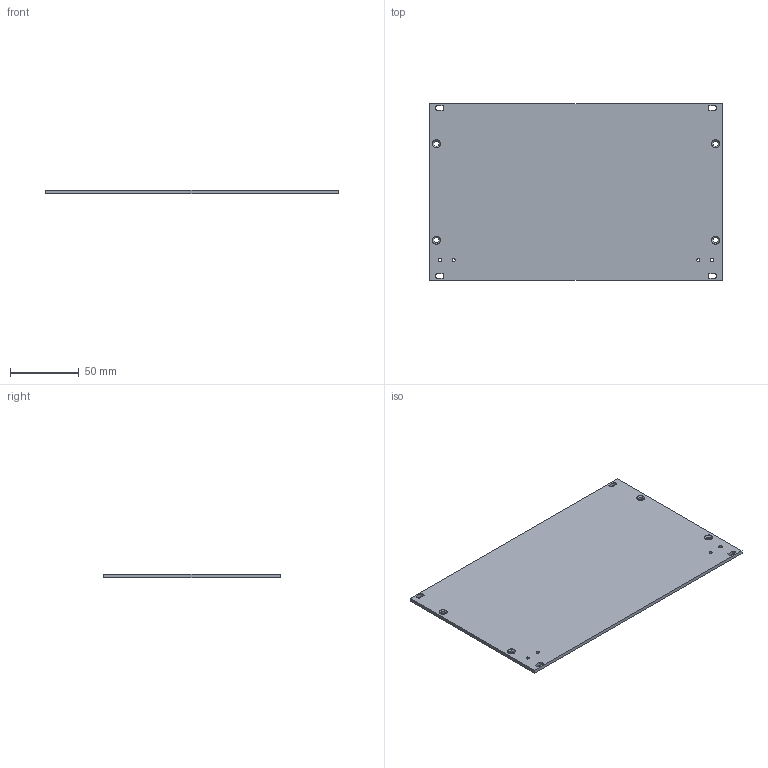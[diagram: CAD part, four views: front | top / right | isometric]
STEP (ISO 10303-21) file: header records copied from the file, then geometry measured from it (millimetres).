
FILE_DESCRIPTION(('STEP AP214'),'1');
FILE_NAME('34812142.stp','2019-03-13T09:31:15',('TraceParts'),('TraceParts S.A.'),'Spatial InterOp 3D',' ',' ');
FILE_SCHEMA(('automotive_design'));
Length unit declared in the file: millimetre
Products named in the file (1): 34812142
Bounding box: 213.02 x 128.4 x 2.5 mm (x, y, z)
Volume: 67992.5 mm3; surface area: 56479.5 mm2
Topology: 1 solids, 1 shells, 62 faces, 164 edges, 104 vertices
Faces by surface type: cylinder 40, plane 14, cone 8
Entity records: 2509 total; most frequent: DIRECTION 370, CARTESIAN_POINT 331, ORIENTED_EDGE 328, EDGE_CURVE 164, AXIS2_PLACEMENT_3D 143, VERTEX_POINT 104, EDGE_LOOP 86, LINE 84
